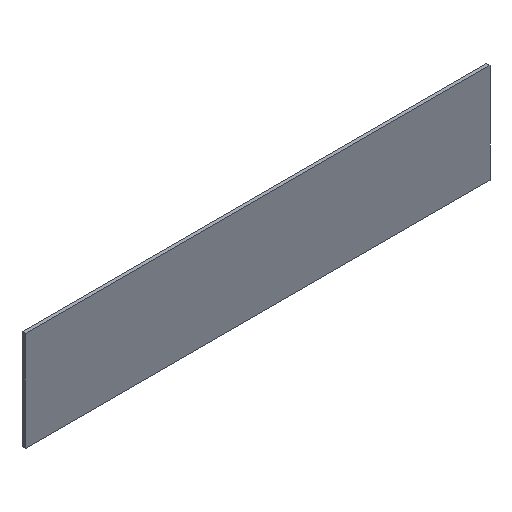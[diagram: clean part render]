
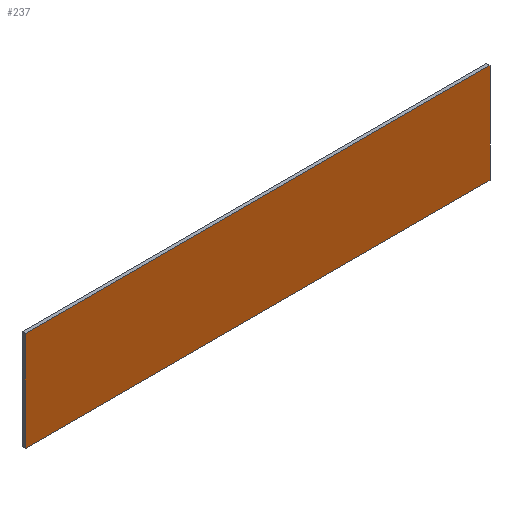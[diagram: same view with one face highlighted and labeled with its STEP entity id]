
A CAD part, isometric view. The second image highlights one B-rep face of the part: STEP entity #237.
In plain terms, the highlighted planar face has unit normal (0, -1, 0).
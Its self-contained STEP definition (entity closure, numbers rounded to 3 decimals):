
#21 = EDGE_CURVE('',#22,#24,#26,.T.);
#22 = VERTEX_POINT('',#23);
#23 = CARTESIAN_POINT('',(-700.,900.,1300.));
#24 = VERTEX_POINT('',#25);
#25 = CARTESIAN_POINT('',(-700.,900.,1600.));
#26 = SURFACE_CURVE('',#27,(#31,#43),.PCURVE_S1.);
#27 = LINE('',#28,#29);
#28 = CARTESIAN_POINT('',(-700.,900.,1300.));
#29 = VECTOR('',#30,1.);
#30 = DIRECTION('',(0.,0.,1.));
#31 = PCURVE('',#32,#37);
#32 = PLANE('',#33);
#33 = AXIS2_PLACEMENT_3D('',#34,#35,#36);
#34 = CARTESIAN_POINT('',(-700.,900.,1300.));
#35 = DIRECTION('',(1.,0.,-0.));
#36 = DIRECTION('',(0.,0.,1.));
#37 = DEFINITIONAL_REPRESENTATION('',(#38),#42);
#38 = LINE('',#39,#40);
#39 = CARTESIAN_POINT('',(0.,0.));
#40 = VECTOR('',#41,1.);
#41 = DIRECTION('',(1.,0.));
#42 = ( GEOMETRIC_REPRESENTATION_CONTEXT(2) 
PARAMETRIC_REPRESENTATION_CONTEXT() REPRESENTATION_CONTEXT('2D SPACE',''
  ) );
#43 = PCURVE('',#44,#49);
#44 = PLANE('',#45);
#45 = AXIS2_PLACEMENT_3D('',#46,#47,#48);
#46 = CARTESIAN_POINT('',(-700.,900.,1300.));
#47 = DIRECTION('',(-0.,1.,0.));
#48 = DIRECTION('',(0.,0.,1.));
#49 = DEFINITIONAL_REPRESENTATION('',(#50),#54);
#50 = LINE('',#51,#52);
#51 = CARTESIAN_POINT('',(0.,0.));
#52 = VECTOR('',#53,1.);
#53 = DIRECTION('',(1.,0.));
#54 = ( GEOMETRIC_REPRESENTATION_CONTEXT(2) 
PARAMETRIC_REPRESENTATION_CONTEXT() REPRESENTATION_CONTEXT('2D SPACE',''
  ) );
#72 = PLANE('',#73);
#73 = AXIS2_PLACEMENT_3D('',#74,#75,#76);
#74 = CARTESIAN_POINT('',(-700.,900.,1300.));
#75 = DIRECTION('',(0.,0.,1.));
#76 = DIRECTION('',(1.,0.,-0.));
#126 = PLANE('',#127);
#127 = AXIS2_PLACEMENT_3D('',#128,#129,#130);
#128 = CARTESIAN_POINT('',(-700.,900.,1600.));
#129 = DIRECTION('',(0.,0.,1.));
#130 = DIRECTION('',(1.,0.,-0.));
#141 = EDGE_CURVE('',#142,#144,#146,.T.);
#142 = VERTEX_POINT('',#143);
#143 = CARTESIAN_POINT('',(700.,900.,1300.));
#144 = VERTEX_POINT('',#145);
#145 = CARTESIAN_POINT('',(700.,900.,1600.));
#146 = SURFACE_CURVE('',#147,(#151,#163),.PCURVE_S1.);
#147 = LINE('',#148,#149);
#148 = CARTESIAN_POINT('',(700.,900.,1300.));
#149 = VECTOR('',#150,1.);
#150 = DIRECTION('',(0.,0.,1.));
#151 = PCURVE('',#152,#157);
#152 = PLANE('',#153);
#153 = AXIS2_PLACEMENT_3D('',#154,#155,#156);
#154 = CARTESIAN_POINT('',(700.,900.,1300.));
#155 = DIRECTION('',(1.,0.,-0.));
#156 = DIRECTION('',(0.,0.,1.));
#157 = DEFINITIONAL_REPRESENTATION('',(#158),#162);
#158 = LINE('',#159,#160);
#159 = CARTESIAN_POINT('',(0.,0.));
#160 = VECTOR('',#161,1.);
#161 = DIRECTION('',(1.,0.));
#162 = ( GEOMETRIC_REPRESENTATION_CONTEXT(2) 
PARAMETRIC_REPRESENTATION_CONTEXT() REPRESENTATION_CONTEXT('2D SPACE',''
  ) );
#163 = PCURVE('',#44,#164);
#164 = DEFINITIONAL_REPRESENTATION('',(#165),#169);
#165 = LINE('',#166,#167);
#166 = CARTESIAN_POINT('',(0.,1400.));
#167 = VECTOR('',#168,1.);
#168 = DIRECTION('',(1.,0.));
#169 = ( GEOMETRIC_REPRESENTATION_CONTEXT(2) 
PARAMETRIC_REPRESENTATION_CONTEXT() REPRESENTATION_CONTEXT('2D SPACE',''
  ) );
#237 = ADVANCED_FACE('',(#238),#44,.F.);
#238 = FACE_BOUND('',#239,.F.);
#239 = EDGE_LOOP('',(#240,#261,#262,#283));
#240 = ORIENTED_EDGE('',*,*,#241,.F.);
#241 = EDGE_CURVE('',#22,#142,#242,.T.);
#242 = SURFACE_CURVE('',#243,(#247,#254),.PCURVE_S1.);
#243 = LINE('',#244,#245);
#244 = CARTESIAN_POINT('',(-700.,900.,1300.));
#245 = VECTOR('',#246,1.);
#246 = DIRECTION('',(1.,0.,-0.));
#247 = PCURVE('',#44,#248);
#248 = DEFINITIONAL_REPRESENTATION('',(#249),#253);
#249 = LINE('',#250,#251);
#250 = CARTESIAN_POINT('',(0.,0.));
#251 = VECTOR('',#252,1.);
#252 = DIRECTION('',(0.,1.));
#253 = ( GEOMETRIC_REPRESENTATION_CONTEXT(2) 
PARAMETRIC_REPRESENTATION_CONTEXT() REPRESENTATION_CONTEXT('2D SPACE',''
  ) );
#254 = PCURVE('',#72,#255);
#255 = DEFINITIONAL_REPRESENTATION('',(#256),#260);
#256 = LINE('',#257,#258);
#257 = CARTESIAN_POINT('',(0.,0.));
#258 = VECTOR('',#259,1.);
#259 = DIRECTION('',(1.,0.));
#260 = ( GEOMETRIC_REPRESENTATION_CONTEXT(2) 
PARAMETRIC_REPRESENTATION_CONTEXT() REPRESENTATION_CONTEXT('2D SPACE',''
  ) );
#261 = ORIENTED_EDGE('',*,*,#21,.T.);
#262 = ORIENTED_EDGE('',*,*,#263,.T.);
#263 = EDGE_CURVE('',#24,#144,#264,.T.);
#264 = SURFACE_CURVE('',#265,(#269,#276),.PCURVE_S1.);
#265 = LINE('',#266,#267);
#266 = CARTESIAN_POINT('',(-700.,900.,1600.));
#267 = VECTOR('',#268,1.);
#268 = DIRECTION('',(1.,0.,-0.));
#269 = PCURVE('',#44,#270);
#270 = DEFINITIONAL_REPRESENTATION('',(#271),#275);
#271 = LINE('',#272,#273);
#272 = CARTESIAN_POINT('',(300.,0.));
#273 = VECTOR('',#274,1.);
#274 = DIRECTION('',(0.,1.));
#275 = ( GEOMETRIC_REPRESENTATION_CONTEXT(2) 
PARAMETRIC_REPRESENTATION_CONTEXT() REPRESENTATION_CONTEXT('2D SPACE',''
  ) );
#276 = PCURVE('',#126,#277);
#277 = DEFINITIONAL_REPRESENTATION('',(#278),#282);
#278 = LINE('',#279,#280);
#279 = CARTESIAN_POINT('',(0.,0.));
#280 = VECTOR('',#281,1.);
#281 = DIRECTION('',(1.,0.));
#282 = ( GEOMETRIC_REPRESENTATION_CONTEXT(2) 
PARAMETRIC_REPRESENTATION_CONTEXT() REPRESENTATION_CONTEXT('2D SPACE',''
  ) );
#283 = ORIENTED_EDGE('',*,*,#141,.F.);
